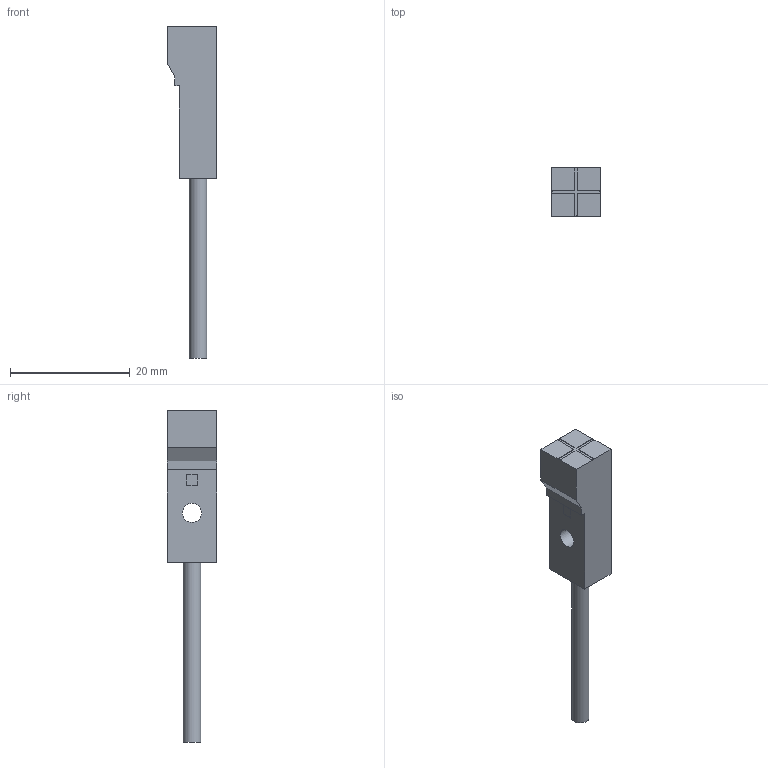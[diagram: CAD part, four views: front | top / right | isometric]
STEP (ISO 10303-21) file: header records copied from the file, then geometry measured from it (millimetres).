
FILE_DESCRIPTION(/* description */ (''),/* implementation_level */ '2;1');
FILE_NAME(/* name */ 'F:\HUAYIFENG\01)HUAYIFENG_宣传文件\01)HUAYIFENG_\X2\5BA34F2065874EF6\X0\_产品资料整合\03)产品3D文档\05)产品3D_接近系列_K12_2019\小方型接近传感器\PXH08.stp',/* time_stamp */ '2019-04-25T05:20:06-07:00',/* author */ ('fengjiarun'),/* organization */ (''),/* preprocessor_version */ 'ST-DEVELOPER v16.5',/* originating_system */ 'Autodesk Inventor 2017',/* authorisation */ '');
FILE_SCHEMA (('AUTOMOTIVE_DESIGN { 1 0 10303 214 3 1 1 }'));
Length unit declared in the file: millimetre
Products named in the file (1): PXH08
Bounding box: 8.27 x 8.3 x 55.5 mm (x, y, z)
Volume: 1609.9 mm3; surface area: 1229.4 mm2
Topology: 1 solids, 1 shells, 31 faces, 79 edges, 53 vertices
Faces by surface type: plane 29, cylinder 2
Full cylindrical faces by diameter (mm): 2.9 x1, 3.2 x1
Entity records: 934 total; most frequent: CARTESIAN_POINT 160, ORIENTED_EDGE 152, DIRECTION 144, EDGE_CURVE 76, LINE 72, VECTOR 72, VERTEX_POINT 52, EDGE_LOOP 38
